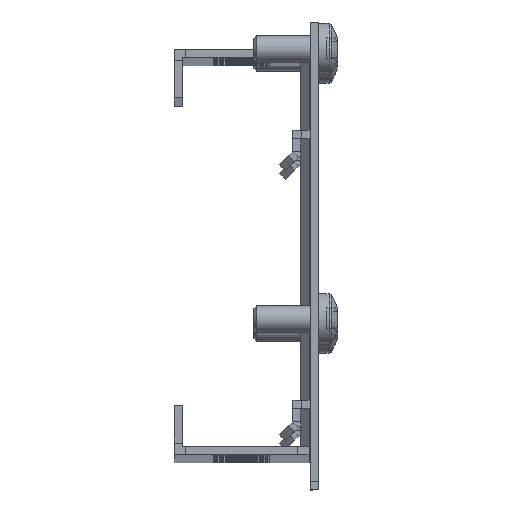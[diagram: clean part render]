
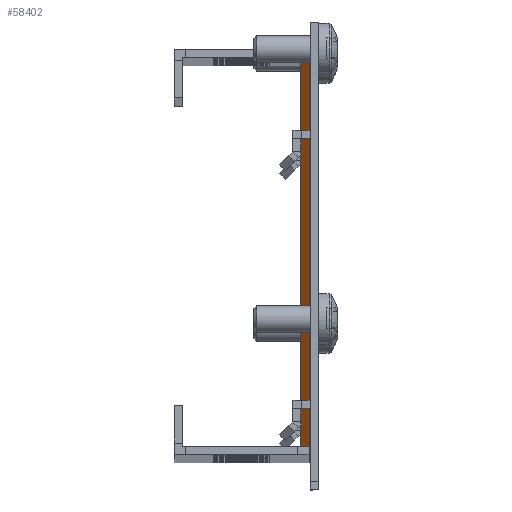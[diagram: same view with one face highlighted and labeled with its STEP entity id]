
A CAD part, top view. The second image highlights one B-rep face of the part: STEP entity #58402.
In plain terms, the highlighted planar face has unit normal (-0.707, 0, 0.707) as drawn and (-0.707, 0, -0.707) by its records, which use the part's own axes.
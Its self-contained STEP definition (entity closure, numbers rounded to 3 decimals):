
#38825 = VERTEX_POINT('',#38826);
#38826 = CARTESIAN_POINT('',(-441.87,-36.,-1.5));
#38832 = EDGE_CURVE('',#38833,#38825,#38835,.T.);
#38833 = VERTEX_POINT('',#38834);
#38834 = CARTESIAN_POINT('',(-441.87,36.,-1.5));
#38835 = LINE('',#38836,#38837);
#38836 = CARTESIAN_POINT('',(-441.87,0.,-1.5));
#38837 = VECTOR('',#38838,1.);
#38838 = DIRECTION('',(0.,-1.,0.));
#58059 = VERTEX_POINT('',#58060);
#58060 = CARTESIAN_POINT('',(-443.672,36.,0.302));
#58066 = EDGE_CURVE('',#58067,#58059,#58069,.T.);
#58067 = VERTEX_POINT('',#58068);
#58068 = CARTESIAN_POINT('',(-443.672,-36.,0.302));
#58069 = LINE('',#58070,#58071);
#58070 = CARTESIAN_POINT('',(-443.672,0.,
    0.302));
#58071 = VECTOR('',#58072,1.);
#58072 = DIRECTION('',(0.,1.,0.));
#58271 = VERTEX_POINT('',#58272);
#58272 = CARTESIAN_POINT('',(-442.485,36.,-0.885));
#58292 = EDGE_CURVE('',#58271,#38833,#58293,.T.);
#58293 = LINE('',#58294,#58295);
#58294 = CARTESIAN_POINT('',(-442.485,36.,-0.885));
#58295 = VECTOR('',#58296,1.);
#58296 = DIRECTION('',(0.707,0.,-0.707));
#58316 = VERTEX_POINT('',#58317);
#58317 = CARTESIAN_POINT('',(-442.485,-36.,-0.885));
#58323 = EDGE_CURVE('',#58316,#38825,#58324,.T.);
#58324 = LINE('',#58325,#58326);
#58325 = CARTESIAN_POINT('',(-221.809,-36.,-221.561));
#58326 = VECTOR('',#58327,1.);
#58327 = DIRECTION('',(0.707,-0.,-0.707));
#58354 = VERTEX_POINT('',#58355);
#58355 = CARTESIAN_POINT('',(-443.496,-36.,0.126));
#58361 = EDGE_CURVE('',#58316,#58354,#58362,.T.);
#58362 = LINE('',#58363,#58364);
#58363 = CARTESIAN_POINT('',(-221.809,-36.,-221.561));
#58364 = VECTOR('',#58365,1.);
#58365 = DIRECTION('',(-0.707,0.,0.707));
#58376 = EDGE_CURVE('',#58377,#58271,#58379,.T.);
#58377 = VERTEX_POINT('',#58378);
#58378 = CARTESIAN_POINT('',(-443.496,36.,0.126));
#58379 = LINE('',#58380,#58381);
#58380 = CARTESIAN_POINT('',(-221.809,36.,-221.561));
#58381 = VECTOR('',#58382,1.);
#58382 = DIRECTION('',(0.707,0.,-0.707));
#58402 = ADVANCED_FACE('',(#58403),#58423,.F.);
#58403 = FACE_BOUND('',#58404,.T.);
#58404 = EDGE_LOOP('',(#58405,#58406,#58407,#58408,#58409,#58410,#58416,
    #58417));
#58405 = ORIENTED_EDGE('',*,*,#58376,.T.);
#58406 = ORIENTED_EDGE('',*,*,#58292,.T.);
#58407 = ORIENTED_EDGE('',*,*,#38832,.T.);
#58408 = ORIENTED_EDGE('',*,*,#58323,.F.);
#58409 = ORIENTED_EDGE('',*,*,#58361,.T.);
#58410 = ORIENTED_EDGE('',*,*,#58411,.T.);
#58411 = EDGE_CURVE('',#58354,#58067,#58412,.T.);
#58412 = LINE('',#58413,#58414);
#58413 = CARTESIAN_POINT('',(-443.496,-36.,0.126));
#58414 = VECTOR('',#58415,1.);
#58415 = DIRECTION('',(-0.707,0.,
    0.707));
#58416 = ORIENTED_EDGE('',*,*,#58066,.T.);
#58417 = ORIENTED_EDGE('',*,*,#58418,.F.);
#58418 = EDGE_CURVE('',#58377,#58059,#58419,.T.);
#58419 = LINE('',#58420,#58421);
#58420 = CARTESIAN_POINT('',(-221.809,36.,-221.561));
#58421 = VECTOR('',#58422,1.);
#58422 = DIRECTION('',(-0.707,0.,
    0.707));
#58423 = PLANE('',#58424);
#58424 = AXIS2_PLACEMENT_3D('',#58425,#58426,#58427);
#58425 = CARTESIAN_POINT('',(-221.809,0.,
    -221.561));
#58426 = DIRECTION('',(0.707,0.,0.707)
  );
#58427 = DIRECTION('',(0.707,0.,-0.707));
